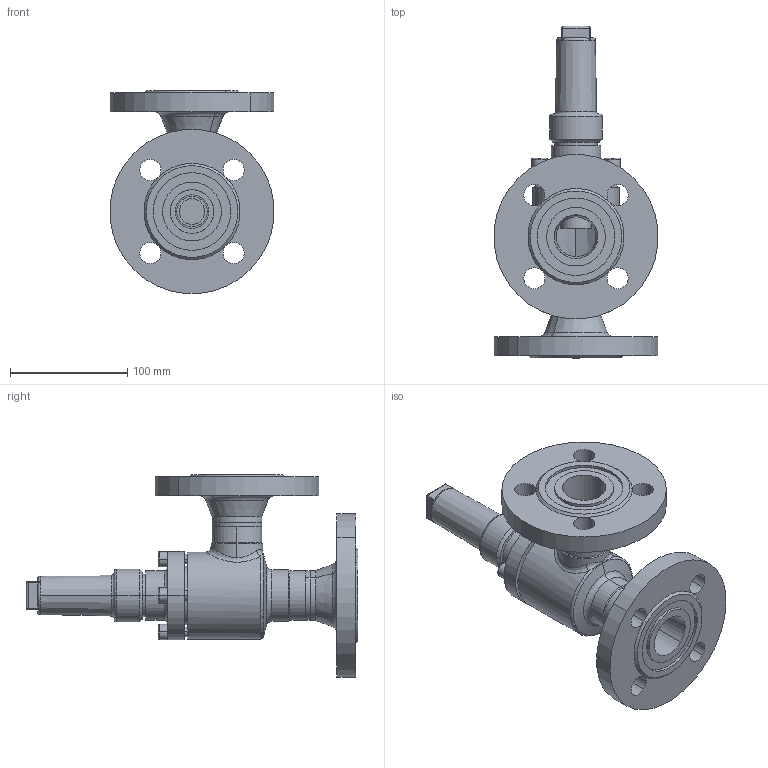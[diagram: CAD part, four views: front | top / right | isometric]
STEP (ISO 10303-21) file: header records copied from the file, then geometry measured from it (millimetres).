
FILE_DESCRIPTION (( 'STEP AP214' ), '1' );
FILE_NAME ('HRAB12420D13-DN032_DIN-FL-N_PS40.STEP', '2006-04-27T12:08:04', ( 'Herr Grams' ), ( 'AWP GmbH' ), 'SwSTEP 2.0', 'SolidWorks 2002296', '' );
FILE_SCHEMA (( 'AUTOMOTIVE_DESIGN' ));
Length unit declared in the file: millimetre
Products named in the file (10): HRAB12420D13-DN032_DIN-FL-N_PS40; Gehäuse-kpl16420-DN032_DIN_PS40_Standard; Gehäuse16400-DN032_Standard; Flansch-DIN2635-Nut_PS40_DIN-Flansch-DN032_PS40-Nut; bead16420-Geh-032-1_Standard; bead16420-Geh-032-2_Standard; Kappe16402_DN010-32_Standard; AVB16300E13_Deck+Schr-DN25-32_Standard; Deckel16300E13-DN25-32_Standard; Zylinderschraube-DIN912_M 8x 25
Assembly tree (13 placements, depth 3):
  HRAB12420D13-DN032_DIN-FL-N_PS40
    Gehäuse-kpl16420-DN032_DIN_PS40_Standard
      Gehäuse16400-DN032_Standard
      Flansch-DIN2635-Nut_PS40_DIN-Flansch-DN032_PS40-Nut  x2
      bead16420-Geh-032-1_Standard
      bead16420-Geh-032-2_Standard
    AVB16300E13_Deck+Schr-DN25-32_Standard
      Zylinderschraube-DIN912_M 8x 25  x4
      Deckel16300E13-DN25-32_Standard
    Kappe16402_DN010-32_Standard
Bounding box: 139.47 x 282.5 x 172.73 mm (x, y, z)
Volume: 834612 mm3; surface area: 187714.5 mm2
Topology: 11 solids, 11 shells, 295 faces, 662 edges, 409 vertices
Faces by surface type: cylinder 122, plane 84, cone 52, torus 27, bspline 10
Entity records: 18615 total; most frequent: CARTESIAN_POINT 13106, DIRECTION 1072, ORIENTED_EDGE 944, EDGE_CURVE 472, AXIS2_PLACEMENT_3D 455, VERTEX_POINT 291, EDGE_LOOP 249, CIRCLE 238
